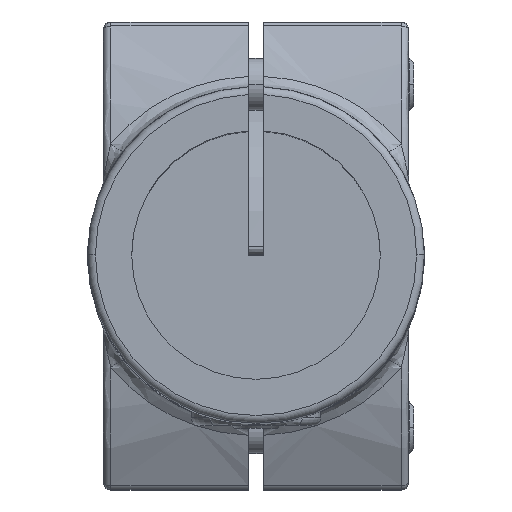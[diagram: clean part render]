
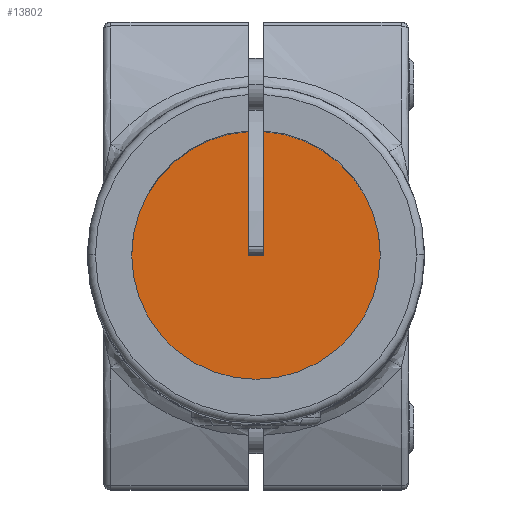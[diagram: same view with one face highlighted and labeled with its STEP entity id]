
A CAD part, top view. The second image highlights one B-rep face of the part: STEP entity #13802.
In plain terms, the highlighted planar face has unit normal (0, 0, 1) as drawn and (0, 0, -1) by its records, which use the part's own axes.
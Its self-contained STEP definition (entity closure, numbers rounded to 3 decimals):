
#205 = CARTESIAN_POINT ( 'NONE',  ( 1.5, 0., 74. ) ) ;
#804 = VERTEX_POINT ( 'NONE', #16945 ) ;
#1212 = VECTOR ( 'NONE', #13891, 1000. ) ;
#1518 = ORIENTED_EDGE ( 'NONE', *, *, #17574, .T. ) ;
#1675 = CARTESIAN_POINT ( 'NONE',  ( 0., 0., 74. ) ) ;
#1871 = EDGE_CURVE ( 'NONE', #11076, #19275, #13053, .T. ) ;
#2402 = CARTESIAN_POINT ( 'NONE',  ( -24., 0., 74. ) ) ;
#2461 = EDGE_CURVE ( 'NONE', #14421, #12524, #11632, .T. ) ;
#3148 = VECTOR ( 'NONE', #6432, 1000. ) ;
#3199 = DIRECTION ( 'NONE',  ( 0., 0., -1. ) ) ;
#3257 = VERTEX_POINT ( 'NONE', #17614 ) ;
#3415 = CARTESIAN_POINT ( 'NONE',  ( -1.5, 45., 74. ) ) ;
#3448 = AXIS2_PLACEMENT_3D ( 'NONE', #1675, #17219, #16921 ) ;
#3611 = CARTESIAN_POINT ( 'NONE',  ( 0., 0., 74. ) ) ;
#3910 = CIRCLE ( 'NONE', #12841, 24. ) ;
#4011 = ORIENTED_EDGE ( 'NONE', *, *, #2461, .F. ) ;
#4854 = FACE_OUTER_BOUND ( 'NONE', #9593, .T. ) ;
#5310 = CARTESIAN_POINT ( 'NONE',  ( 0., 0., 74. ) ) ;
#5675 = ORIENTED_EDGE ( 'NONE', *, *, #9780, .T. ) ;
#6024 = CARTESIAN_POINT ( 'NONE',  ( -1.5, 0., 74. ) ) ;
#6314 = DIRECTION ( 'NONE',  ( -1., 0., 0. ) ) ;
#6338 = VECTOR ( 'NONE', #6314, 1000. ) ;
#6432 = DIRECTION ( 'NONE',  ( 0., -1., 0. ) ) ;
#7299 = AXIS2_PLACEMENT_3D ( 'NONE', #3611, #15481, #12592 ) ;
#8538 = CIRCLE ( 'NONE', #12676, 24. ) ;
#9260 = CARTESIAN_POINT ( 'NONE',  ( 24., 0., 74. ) ) ;
#9263 = DIRECTION ( 'NONE',  ( -1., 0., 0. ) ) ;
#9535 = PLANE ( 'NONE',  #3448 ) ;
#9593 = EDGE_LOOP ( 'NONE', ( #19669, #14148, #1518, #5675, #4011, #18974 ) ) ;
#9682 = DIRECTION ( 'NONE',  ( 0., 0., -1. ) ) ;
#9780 = EDGE_CURVE ( 'NONE', #804, #12524, #10889, .T. ) ;
#10840 = CARTESIAN_POINT ( 'NONE',  ( 1.5, 45., 74. ) ) ;
#10889 = LINE ( 'NONE', #3415, #1212 ) ;
#11076 = VERTEX_POINT ( 'NONE', #9260 ) ;
#11386 = DIRECTION ( 'NONE',  ( -1., 0., 0. ) ) ;
#11632 = LINE ( 'NONE', #6024, #6338 ) ;
#11674 = CARTESIAN_POINT ( 'NONE',  ( -1.5, 0., 74. ) ) ;
#12524 = VERTEX_POINT ( 'NONE', #11674 ) ;
#12592 = DIRECTION ( 'NONE',  ( -1., 0., 0. ) ) ;
#12676 = AXIS2_PLACEMENT_3D ( 'NONE', #5310, #9682, #11386 ) ;
#12841 = AXIS2_PLACEMENT_3D ( 'NONE', #16853, #3199, #9263 ) ;
#13053 = CIRCLE ( 'NONE', #7299, 24. ) ;
#13802 = ADVANCED_FACE ( 'NONE', ( #4854 ), #9535, .T. ) ;
#13891 = DIRECTION ( 'NONE',  ( 0., -1., 0. ) ) ;
#14148 = ORIENTED_EDGE ( 'NONE', *, *, #1871, .T. ) ;
#14212 = EDGE_CURVE ( 'NONE', #3257, #11076, #8538, .T. ) ;
#14421 = VERTEX_POINT ( 'NONE', #205 ) ;
#14931 = EDGE_CURVE ( 'NONE', #3257, #14421, #17221, .T. ) ;
#15481 = DIRECTION ( 'NONE',  ( 0., 0., -1. ) ) ;
#16853 = CARTESIAN_POINT ( 'NONE',  ( 0., 0., 74. ) ) ;
#16921 = DIRECTION ( 'NONE',  ( -1., 0., 0. ) ) ;
#16945 = CARTESIAN_POINT ( 'NONE',  ( -1.5, 23.953, 74. ) ) ;
#17219 = DIRECTION ( 'NONE',  ( 0., 0., -1. ) ) ;
#17221 = LINE ( 'NONE', #10840, #3148 ) ;
#17574 = EDGE_CURVE ( 'NONE', #19275, #804, #3910, .T. ) ;
#17614 = CARTESIAN_POINT ( 'NONE',  ( 1.5, 23.953, 74. ) ) ;
#18974 = ORIENTED_EDGE ( 'NONE', *, *, #14931, .F. ) ;
#19275 = VERTEX_POINT ( 'NONE', #2402 ) ;
#19669 = ORIENTED_EDGE ( 'NONE', *, *, #14212, .T. ) ;
